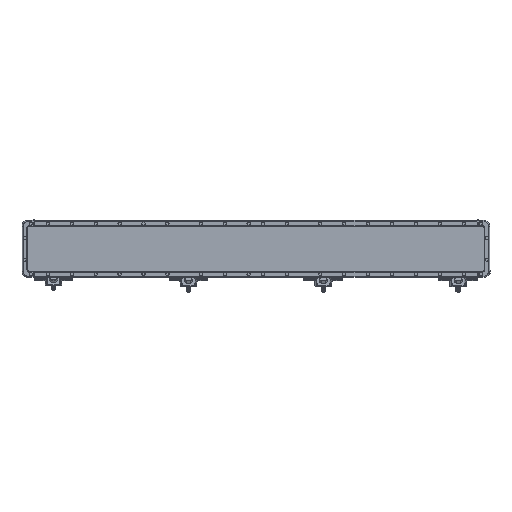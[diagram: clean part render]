
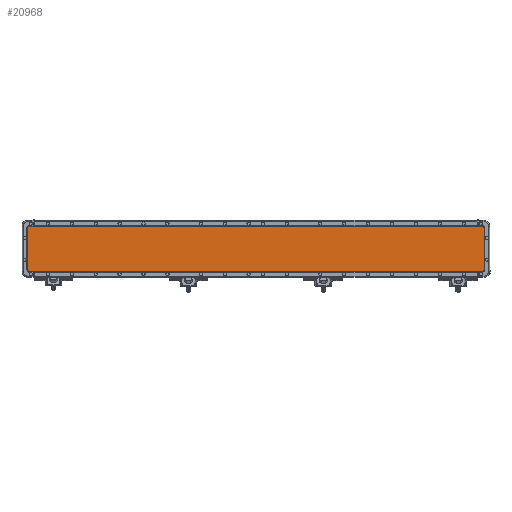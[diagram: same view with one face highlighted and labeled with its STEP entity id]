
A CAD part, top view. The second image highlights one B-rep face of the part: STEP entity #20968.
In plain terms, the highlighted planar face has unit normal (0, 0, 1).
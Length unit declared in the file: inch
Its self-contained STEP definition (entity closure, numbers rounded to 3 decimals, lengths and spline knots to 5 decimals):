
#374 = VERTEX_POINT ( 'NONE', #16980 ) ;
#716 = DIRECTION ( 'NONE',  ( 0., 0., 1. ) ) ;
#1799 = CARTESIAN_POINT ( 'NONE',  ( -41.76392, -4.415, -0.3 ) ) ;
#1897 = CARTESIAN_POINT ( 'NONE',  ( -0.7, -0.515, -0.3 ) ) ;
#1968 = DIRECTION ( 'NONE',  ( -1., 0., 0. ) ) ;
#2343 = CIRCLE ( 'NONE', #42264, 0.2 ) ;
#2752 = VERTEX_POINT ( 'NONE', #55935 ) ;
#3460 = CARTESIAN_POINT ( 'NONE',  ( -41.76392, -4.615, -0.3 ) ) ;
#4007 = AXIS2_PLACEMENT_3D ( 'NONE', #7775, #8211, #41950 ) ;
#7775 = CARTESIAN_POINT ( 'NONE',  ( -41.76392, -0.515, -0.3 ) ) ;
#8211 = DIRECTION ( 'NONE',  ( 0., 0., -1. ) ) ;
#8975 = CIRCLE ( 'NONE', #22933, 0.2 ) ;
#11306 = ORIENTED_EDGE ( 'NONE', *, *, #46805, .T. ) ;
#12248 = CARTESIAN_POINT ( 'NONE',  ( -0.7, -0.715, -0.3 ) ) ;
#12833 = CARTESIAN_POINT ( 'NONE',  ( -0.7, -4.415, -0.3 ) ) ;
#12884 = PLANE ( 'NONE',  #4007 ) ;
#13366 = DIRECTION ( 'NONE',  ( 0., 0., 1. ) ) ;
#14813 = CIRCLE ( 'NONE', #42710, 0.2 ) ;
#15431 = EDGE_CURVE ( 'NONE', #59121, #18807, #40740, .T. ) ;
#16447 = AXIS2_PLACEMENT_3D ( 'NONE', #12833, #46521, #17674 ) ;
#16980 = CARTESIAN_POINT ( 'NONE',  ( -41.56392, -0.515, -0.3 ) ) ;
#17106 = DIRECTION ( 'NONE',  ( -1., 0., 0. ) ) ;
#17448 = ORIENTED_EDGE ( 'NONE', *, *, #25254, .T. ) ;
#17674 = DIRECTION ( 'NONE',  ( -1., 0., 0. ) ) ;
#18025 = DIRECTION ( 'NONE',  ( 0., -1., 0. ) ) ;
#18807 = VERTEX_POINT ( 'NONE', #45537 ) ;
#19582 = LINE ( 'NONE', #3460, #56515 ) ;
#20968 = ADVANCED_FACE ( 'NONE', ( #37182 ), #12884, .F. ) ;
#21884 = VERTEX_POINT ( 'NONE', #1799 ) ;
#22714 = CARTESIAN_POINT ( 'NONE',  ( -0.7, -4.615, -0.3 ) ) ;
#22882 = ORIENTED_EDGE ( 'NONE', *, *, #46994, .T. ) ;
#22933 = AXIS2_PLACEMENT_3D ( 'NONE', #29547, #716, #34406 ) ;
#23215 = DIRECTION ( 'NONE',  ( 0., 1., 0. ) ) ;
#23606 = ORIENTED_EDGE ( 'NONE', *, *, #52375, .T. ) ;
#23951 = LINE ( 'NONE', #35898, #60959 ) ;
#24910 = CARTESIAN_POINT ( 'NONE',  ( -0.5, -4.415, -0.3 ) ) ;
#25254 = EDGE_CURVE ( 'NONE', #62132, #57777, #23951, .T. ) ;
#26181 = DIRECTION ( 'NONE',  ( 1., 0., 0. ) ) ;
#26370 = VECTOR ( 'NONE', #23215, 39.37008 ) ;
#29387 = ORIENTED_EDGE ( 'NONE', *, *, #15431, .T. ) ;
#29547 = CARTESIAN_POINT ( 'NONE',  ( -41.56392, -0.715, -0.3 ) ) ;
#34406 = DIRECTION ( 'NONE',  ( -1., 0., 0. ) ) ;
#35110 = CARTESIAN_POINT ( 'NONE',  ( -41.56392, -4.615, -0.3 ) ) ;
#35282 = ORIENTED_EDGE ( 'NONE', *, *, #53335, .T. ) ;
#35898 = CARTESIAN_POINT ( 'NONE',  ( -41.76392, -4.615, -0.3 ) ) ;
#37170 = EDGE_CURVE ( 'NONE', #21884, #62132, #14813, .T. ) ;
#37182 = FACE_OUTER_BOUND ( 'NONE', #43907, .T. ) ;
#37945 = VERTEX_POINT ( 'NONE', #1897 ) ;
#40740 = LINE ( 'NONE', #56963, #26370 ) ;
#41950 = DIRECTION ( 'NONE',  ( -1., 0., 0. ) ) ;
#42239 = CARTESIAN_POINT ( 'NONE',  ( -41.56392, -4.415, -0.3 ) ) ;
#42264 = AXIS2_PLACEMENT_3D ( 'NONE', #12248, #45968, #17106 ) ;
#42710 = AXIS2_PLACEMENT_3D ( 'NONE', #42239, #13366, #47055 ) ;
#43864 = ORIENTED_EDGE ( 'NONE', *, *, #37170, .T. ) ;
#43907 = EDGE_LOOP ( 'NONE', ( #29387, #55626, #23606, #22882, #11306, #43864, #17448, #35282 ) ) ;
#45537 = CARTESIAN_POINT ( 'NONE',  ( -0.5, -0.715, -0.3 ) ) ;
#45826 = EDGE_CURVE ( 'NONE', #18807, #37945, #2343, .T. ) ;
#45968 = DIRECTION ( 'NONE',  ( 0., 0., 1. ) ) ;
#46521 = DIRECTION ( 'NONE',  ( 0., 0., 1. ) ) ;
#46805 = EDGE_CURVE ( 'NONE', #2752, #21884, #19582, .T. ) ;
#46994 = EDGE_CURVE ( 'NONE', #374, #2752, #8975, .T. ) ;
#47055 = DIRECTION ( 'NONE',  ( -1., 0., 0. ) ) ;
#51768 = VECTOR ( 'NONE', #1968, 39.37008 ) ;
#52375 = EDGE_CURVE ( 'NONE', #37945, #374, #54819, .T. ) ;
#53176 = CIRCLE ( 'NONE', #16447, 0.2 ) ;
#53335 = EDGE_CURVE ( 'NONE', #57777, #59121, #53176, .T. ) ;
#54819 = LINE ( 'NONE', #59934, #51768 ) ;
#55626 = ORIENTED_EDGE ( 'NONE', *, *, #45826, .T. ) ;
#55935 = CARTESIAN_POINT ( 'NONE',  ( -41.76392, -0.715, -0.3 ) ) ;
#56515 = VECTOR ( 'NONE', #18025, 39.37008 ) ;
#56963 = CARTESIAN_POINT ( 'NONE',  ( -0.5, -4.615, -0.3 ) ) ;
#57777 = VERTEX_POINT ( 'NONE', #22714 ) ;
#59121 = VERTEX_POINT ( 'NONE', #24910 ) ;
#59934 = CARTESIAN_POINT ( 'NONE',  ( -41.76392, -0.515, -0.3 ) ) ;
#60959 = VECTOR ( 'NONE', #26181, 39.37008 ) ;
#62132 = VERTEX_POINT ( 'NONE', #35110 ) ;
